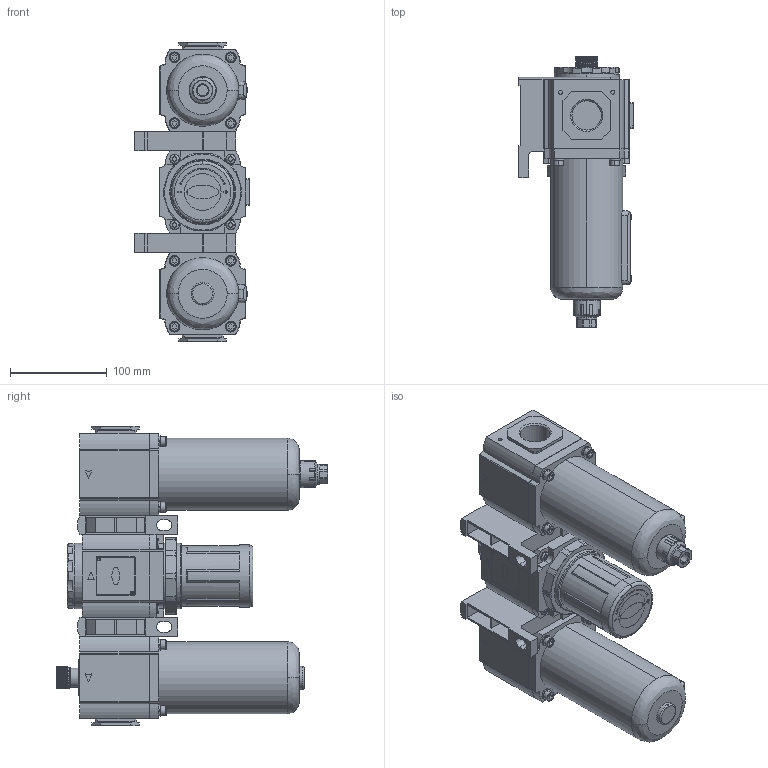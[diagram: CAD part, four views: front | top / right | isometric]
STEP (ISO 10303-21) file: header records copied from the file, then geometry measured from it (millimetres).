
FILE_DESCRIPTION (( 'STEP AP214' ), '1' );
FILE_NAME ('GC-600-25-F1.STEP', '2016-01-22T14:49:23', ( '' ), ( '' ), 'SwSTEP 2.0', 'SolidWorks 2016', '' );
FILE_SCHEMA (( 'AUTOMOTIVE_DESIGN' ));
Length unit declared in the file: millimetre
Products named in the file (29): 19; 4; 26; 16; 1; 27; 18; 6; 20; 17; 11; 8; 28; 15; 24; 14; 9; 2; 13; 21; 10; 3; GC-600-25-F1; 12; 23; 25; 5; 7; 22
Assembly tree (28 placements, depth 2):
  GC-600-25-F1
    1
    2
    3
    4
    5
    6
    7
    8
    9
    10
    11
    12
    13
    14
    15
    16
    17
    18
    19
    20
    21
    22
    23
    24
    25
    26
    27
    28
Bounding box: 118 x 280.5 x 309 mm (x, y, z)
Volume: 2491507.8 mm3; surface area: 488158.8 mm2
Topology: 28 solids, 28 shells, 2010 faces, 5148 edges, 3385 vertices
Faces by surface type: plane 1212, cylinder 609, bspline 105, cone 84
Entity records: 89405 total; most frequent: CARTESIAN_POINT 17000, ORIENTED_EDGE 10296, DIRECTION 10118, EDGE_CURVE 5148, AXIS2_PLACEMENT_3D 3468, VERTEX_POINT 3385, LINE 3182, VECTOR 3182
